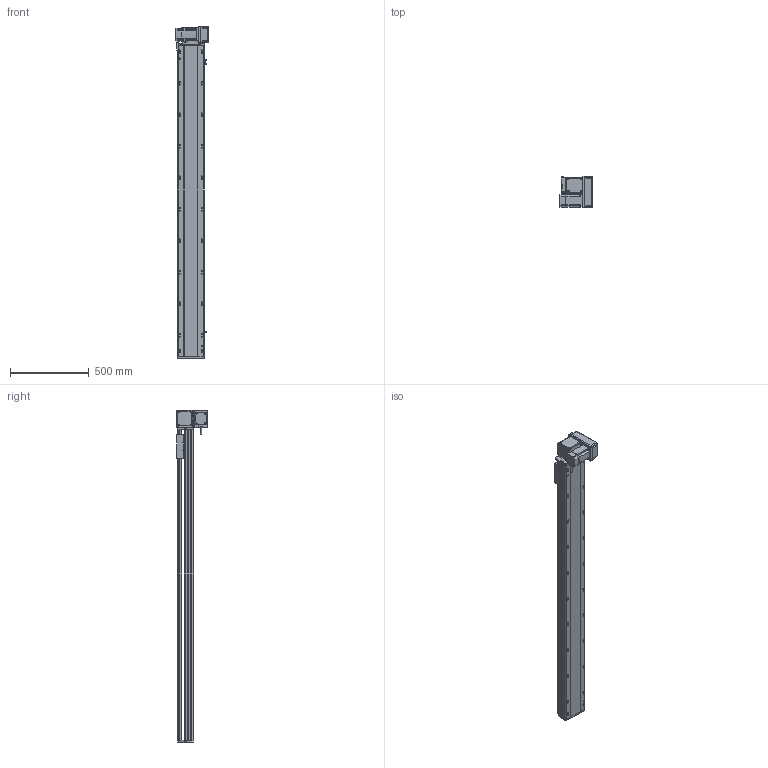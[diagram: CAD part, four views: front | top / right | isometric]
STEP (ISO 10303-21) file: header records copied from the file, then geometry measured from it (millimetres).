
FILE_DESCRIPTION (( 'STEP AP214' ), '1' );
FILE_NAME ('RTB17S-XX-1700-RM-M75-C4.STEP', '2025-12-12T02:10:27', ( '' ), ( '' ), 'SwSTEP 2.0', 'SolidWorks 2018', '' );
FILE_SCHEMA (( 'AUTOMOTIVE_DESIGN' ));
Length unit declared in the file: millimetre
Products named in the file (15): RTB17S-L-014-T20-P75--々湍釱^RTB17S-RM-々湍釱蚾饜-750W_RTB17S-XX-XX-RM-M75-C4; RTB17S-L-007奻裔^RTB17S-XX-XX-RM-M75-C4; RTB17S-XX-1700-RM-M75-C4; RTB22S-GY-018P^RTB17S-RM-々湍釱蚾饜-750W_RTB17S-XX-XX-RM-M75-C4; EE672^RTB17S-XX-XX-RM-M75-C4; RTB17-R-011菁釱^RTB17S-XX-XX-RM-M75-C4; RTB17S-RM-々湍釱蚾饜-750W^RTB17S-XX-XX-RM-M75-C4; RTB17S-L-001-耜醱啣^RTB17S-XX-XX-RM-M75-C4; RTB22S-GY-008-M75--萇儂啣^RTB17S-RM-々湍釱蚾饜-750W_RTB17S-XX-XX-RM-M75-C4; RTB22S-GY-017P^RTB17S-RM-々湍釱蚾饜-750W_RTB17S-XX-XX-RM-M75-C4; RTB17S-賑釱^RTB17S-XX-XX-RM-M75-C4; RTH13-BL-012覜茼え俋离^RTB17S-賑釱_RTB17S-XX-XX-RM-M75-C4; 750W萇儂^RTB17S-XX-XX-RM-M75-C4; RTB22S-GY-005P^RTB17S-RM-々湍釱蚾饜-750W_RTB17S-XX-XX-RM-M75-C4; RTB17S-L-004-賑釱^RTB17S-賑釱_RTB17S-XX-XX-RM-M75-C4
Assembly tree (17 placements, depth 3):
  RTB17S-XX-1700-RM-M75-C4
    RTB17-R-011菁釱^RTB17S-XX-XX-RM-M75-C4
    EE672^RTB17S-XX-XX-RM-M75-C4  x3
    RTB17S-L-001-耜醱啣^RTB17S-XX-XX-RM-M75-C4
    RTB17S-賑釱^RTB17S-XX-XX-RM-M75-C4
      RTB17S-L-004-賑釱^RTB17S-賑釱_RTB17S-XX-XX-RM-M75-C4
      RTH13-BL-012覜茼え俋离^RTB17S-賑釱_RTB17S-XX-XX-RM-M75-C4
    RTB17S-L-007奻裔^RTB17S-XX-XX-RM-M75-C4
    750W萇儂^RTB17S-XX-XX-RM-M75-C4
    RTB17S-RM-々湍釱蚾饜-750W^RTB17S-XX-XX-RM-M75-C4
      RTB17S-L-014-T20-P75--々湍釱^RTB17S-RM-々湍釱蚾饜-750W_RTB17S-XX-XX-RM-M75-C4
      RTB22S-GY-005P^RTB17S-RM-々湍釱蚾饜-750W_RTB17S-XX-XX-RM-M75-C4
      RTB22S-GY-017P^RTB17S-RM-々湍釱蚾饜-750W_RTB17S-XX-XX-RM-M75-C4  x2
      RTB22S-GY-008-M75--萇儂啣^RTB17S-RM-々湍釱蚾饜-750W_RTB17S-XX-XX-RM-M75-C4
      RTB22S-GY-018P^RTB17S-RM-々湍釱蚾饜-750W_RTB17S-XX-XX-RM-M75-C4
Bounding box: 207.4 x 200 x 2107.5 mm (x, y, z)
Volume: 16574329.2 mm3; surface area: 2931648.8 mm2
Topology: 17 solids, 17 shells, 2153 faces, 5998 edges, 3878 vertices
Faces by surface type: plane 978, cylinder 759, bspline 294, cone 110, sphere 8, torus 4
Entity records: 61174 total; most frequent: CARTESIAN_POINT 18062, ORIENTED_EDGE 8840, DIRECTION 8222, EDGE_CURVE 4420, AXIS2_PLACEMENT_3D 2898, VERTEX_POINT 2882, LINE 2426, VECTOR 2426
